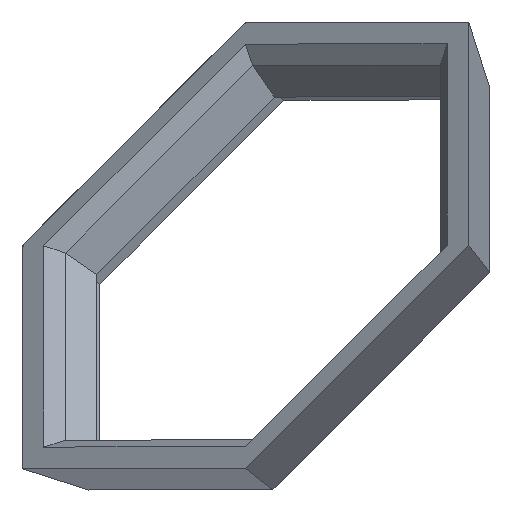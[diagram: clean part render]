
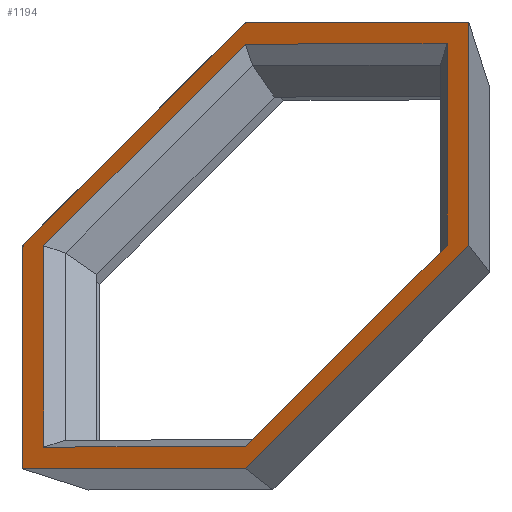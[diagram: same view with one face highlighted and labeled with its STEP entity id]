
A CAD part, top view. The second image highlights one B-rep face of the part: STEP entity #1194.
In plain terms, the highlighted planar face has unit normal (-0.577, 0.577, 0.577).
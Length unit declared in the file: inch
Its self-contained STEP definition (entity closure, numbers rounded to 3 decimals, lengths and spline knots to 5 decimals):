
#26=FACE_BOUND('',#224,.T.);
#74=PLANE('',#1291);
#144=FACE_OUTER_BOUND('',#223,.T.);
#223=EDGE_LOOP('',(#1041,#1042,#1043,#1044,#1045,#1046));
#224=EDGE_LOOP('',(#1047,#1048,#1049,#1050,#1051,#1052));
#315=LINE('',#1801,#463);
#329=LINE('',#1832,#477);
#333=LINE('',#1840,#481);
#338=LINE('',#1849,#486);
#339=LINE('',#1852,#487);
#342=LINE('',#1858,#490);
#346=LINE('',#1864,#494);
#354=LINE('',#1882,#502);
#355=LINE('',#1884,#503);
#356=LINE('',#1886,#504);
#357=LINE('',#1887,#505);
#358=LINE('',#1888,#506);
#463=VECTOR('',#1482,0.3937);
#477=VECTOR('',#1510,0.3937);
#481=VECTOR('',#1516,0.3937);
#486=VECTOR('',#1523,0.3937);
#487=VECTOR('',#1526,0.3937);
#490=VECTOR('',#1531,0.3937);
#494=VECTOR('',#1537,0.3937);
#502=VECTOR('',#1553,0.3937);
#503=VECTOR('',#1554,0.3937);
#504=VECTOR('',#1555,0.3937);
#505=VECTOR('',#1556,0.3937);
#506=VECTOR('',#1557,0.3937);
#605=VERTEX_POINT('',#1798);
#606=VERTEX_POINT('',#1800);
#615=VERTEX_POINT('',#1830);
#616=VERTEX_POINT('',#1831);
#619=VERTEX_POINT('',#1839);
#622=VERTEX_POINT('',#1847);
#623=VERTEX_POINT('',#1851);
#625=VERTEX_POINT('',#1857);
#631=VERTEX_POINT('',#1880);
#632=VERTEX_POINT('',#1881);
#633=VERTEX_POINT('',#1883);
#634=VERTEX_POINT('',#1885);
#737=EDGE_CURVE('',#605,#606,#315,.T.);
#751=EDGE_CURVE('',#615,#616,#329,.T.);
#755=EDGE_CURVE('',#616,#619,#333,.T.);
#760=EDGE_CURVE('',#622,#615,#338,.T.);
#761=EDGE_CURVE('',#619,#623,#339,.T.);
#764=EDGE_CURVE('',#623,#625,#342,.T.);
#768=EDGE_CURVE('',#625,#622,#346,.T.);
#776=EDGE_CURVE('',#631,#632,#354,.T.);
#777=EDGE_CURVE('',#632,#633,#355,.T.);
#778=EDGE_CURVE('',#633,#634,#356,.T.);
#779=EDGE_CURVE('',#606,#634,#357,.T.);
#780=EDGE_CURVE('',#631,#605,#358,.T.);
#1041=ORIENTED_EDGE('',*,*,#776,.T.);
#1042=ORIENTED_EDGE('',*,*,#777,.T.);
#1043=ORIENTED_EDGE('',*,*,#778,.T.);
#1044=ORIENTED_EDGE('',*,*,#779,.F.);
#1045=ORIENTED_EDGE('',*,*,#737,.F.);
#1046=ORIENTED_EDGE('',*,*,#780,.F.);
#1047=ORIENTED_EDGE('',*,*,#751,.F.);
#1048=ORIENTED_EDGE('',*,*,#760,.F.);
#1049=ORIENTED_EDGE('',*,*,#768,.F.);
#1050=ORIENTED_EDGE('',*,*,#764,.F.);
#1051=ORIENTED_EDGE('',*,*,#761,.F.);
#1052=ORIENTED_EDGE('',*,*,#755,.F.);
#1194=ADVANCED_FACE('',(#144,#26),#74,.T.);
#1291=AXIS2_PLACEMENT_3D('',#1879,#1551,#1552);
#1482=DIRECTION('',(0.707,0.707,0.));
#1510=DIRECTION('',(0.707,0.707,0.));
#1516=DIRECTION('',(0.,0.707,-0.707));
#1523=DIRECTION('',(0.707,0.,0.707));
#1526=DIRECTION('',(-0.707,0.,-0.707));
#1531=DIRECTION('',(-0.707,-0.707,0.));
#1537=DIRECTION('',(0.,-0.707,0.707));
#1551=DIRECTION('center_axis',(-0.577,0.577,0.577));
#1552=DIRECTION('ref_axis',(0.707,0.,0.707));
#1553=DIRECTION('',(0.707,0.,0.707));
#1554=DIRECTION('',(0.707,0.707,0.));
#1555=DIRECTION('',(0.,0.707,-0.707));
#1556=DIRECTION('',(0.707,0.,0.707));
#1557=DIRECTION('',(0.,0.707,-0.707));
#1798=CARTESIAN_POINT('',(-4.54268,2.86463,1.18657));
#1800=CARTESIAN_POINT('',(-2.86463,4.54268,1.18657));
#1801=CARTESIAN_POINT('',(-2.44511,4.9622,1.18657));
#1830=CARTESIAN_POINT('',(-2.86463,1.34987,4.37938));
#1831=CARTESIAN_POINT('',(-1.34987,2.86463,4.37938));
#1832=CARTESIAN_POINT('',(-1.62649,2.588,4.37938));
#1839=CARTESIAN_POINT('',(-1.34987,4.37938,2.86463));
#1840=CARTESIAN_POINT('',(-1.34987,3.68324,3.56077));
#1847=CARTESIAN_POINT('',(-4.37938,1.34987,2.86463));
#1849=CARTESIAN_POINT('',(-3.56077,1.34987,3.68324));
#1851=CARTESIAN_POINT('',(-2.86463,4.37938,1.34987));
#1852=CARTESIAN_POINT('',(-1.32945,4.37938,2.88504));
#1857=CARTESIAN_POINT('',(-4.37938,2.86463,1.34987));
#1858=CARTESIAN_POINT('',(-2.4247,4.81931,1.34987));
#1864=CARTESIAN_POINT('',(-4.37938,2.88504,1.32945));
#1879=CARTESIAN_POINT('Origin',(-1.18657,4.54268,2.86463));
#1880=CARTESIAN_POINT('',(-4.54268,1.18657,2.86463));
#1881=CARTESIAN_POINT('',(-2.86463,1.18657,4.54268));
#1882=CARTESIAN_POINT('',(-3.70365,1.18657,3.70365));
#1883=CARTESIAN_POINT('',(-1.18657,2.86463,4.54268));
#1884=CARTESIAN_POINT('',(-2.86463,1.18657,4.54268));
#1885=CARTESIAN_POINT('',(-1.18657,4.54268,2.86463));
#1886=CARTESIAN_POINT('',(-1.18657,2.86463,4.54268));
#1887=CARTESIAN_POINT('',(-2.61888,4.54268,1.43231));
#1888=CARTESIAN_POINT('',(-4.54268,1.43231,2.61888));
